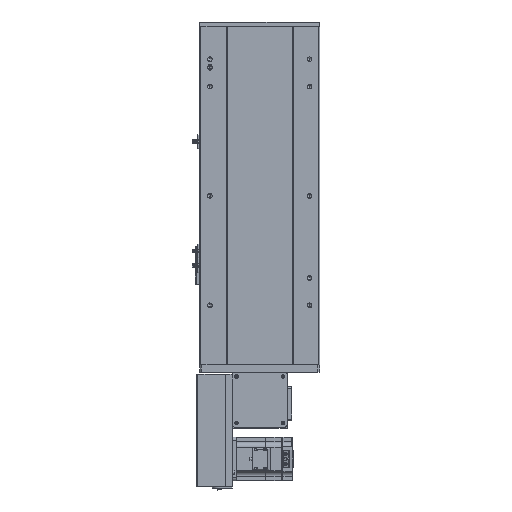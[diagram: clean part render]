
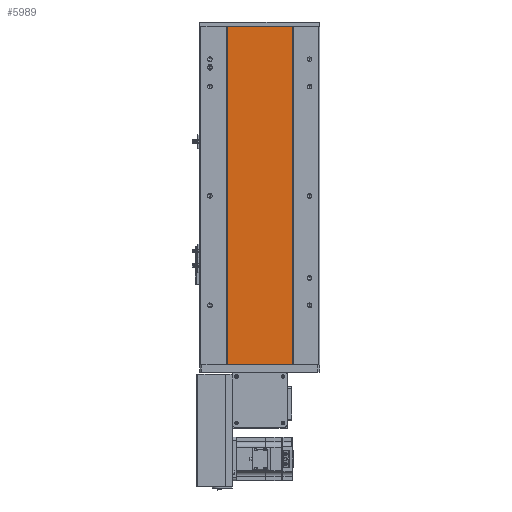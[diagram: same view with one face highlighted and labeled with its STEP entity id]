
A CAD part, front view. The second image highlights one B-rep face of the part: STEP entity #5989.
In plain terms, the highlighted planar face has unit normal (0, -1, 0).
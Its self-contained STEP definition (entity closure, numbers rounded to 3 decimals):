
#482 = FACE_OUTER_BOUND ( 'NONE', #29528, .T. ) ;
#1345 = ORIENTED_EDGE ( 'NONE', *, *, #31892, .T. ) ;
#2060 = ORIENTED_EDGE ( 'NONE', *, *, #35018, .F. ) ;
#2527 = LINE ( 'NONE', #17601, #28164 ) ;
#3098 = CARTESIAN_POINT ( 'NONE',  ( 432.408, 155.016, 0. ) ) ;
#3985 = AXIS2_PLACEMENT_3D ( 'NONE', #12836, #27239, #12342 ) ;
#5023 = ORIENTED_EDGE ( 'NONE', *, *, #47564, .F. ) ;
#5989 = ADVANCED_FACE ( 'NONE', ( #482 ), #30968, .F. ) ;
#8912 = DIRECTION ( 'NONE',  ( 0., 0., -1. ) ) ;
#9148 = CARTESIAN_POINT ( 'NONE',  ( 432.408, 155.016, 619. ) ) ;
#9761 = EDGE_CURVE ( 'NONE', #18168, #38358, #47835, .T. ) ;
#12142 = LINE ( 'NONE', #43395, #28960 ) ;
#12229 = VERTEX_POINT ( 'NONE', #44074 ) ;
#12342 = DIRECTION ( 'NONE',  ( 0., 0., 1. ) ) ;
#12836 = CARTESIAN_POINT ( 'NONE',  ( 0., 155.016, 619. ) ) ;
#15070 = LINE ( 'NONE', #18795, #47658 ) ;
#17601 = CARTESIAN_POINT ( 'NONE',  ( 0., 155.016, 619. ) ) ;
#18168 = VERTEX_POINT ( 'NONE', #3098 ) ;
#18795 = CARTESIAN_POINT ( 'NONE',  ( 432.408, 155.016, 619. ) ) ;
#21775 = DIRECTION ( 'NONE',  ( 1., 0., 0. ) ) ;
#24346 = ORIENTED_EDGE ( 'NONE', *, *, #9761, .T. ) ;
#25293 = DIRECTION ( 'NONE',  ( 1., 0., 0. ) ) ;
#25641 = VECTOR ( 'NONE', #21775, 1000. ) ;
#27239 = DIRECTION ( 'NONE',  ( 0., 1., 0. ) ) ;
#27938 = VERTEX_POINT ( 'NONE', #9148 ) ;
#28164 = VECTOR ( 'NONE', #25293, 1000. ) ;
#28960 = VECTOR ( 'NONE', #8912, 1000. ) ;
#29528 = EDGE_LOOP ( 'NONE', ( #24346, #5023, #2060, #1345 ) ) ;
#30968 = PLANE ( 'NONE',  #3985 ) ;
#31892 = EDGE_CURVE ( 'NONE', #27938, #18168, #15070, .T. ) ;
#35018 = EDGE_CURVE ( 'NONE', #27938, #12229, #2527, .T. ) ;
#35265 = CARTESIAN_POINT ( 'NONE',  ( 551.58, 155.016, 0. ) ) ;
#37663 = DIRECTION ( 'NONE',  ( 0., 0., -1. ) ) ;
#38358 = VERTEX_POINT ( 'NONE', #35265 ) ;
#40138 = CARTESIAN_POINT ( 'NONE',  ( 0., 155.016, 0. ) ) ;
#43395 = CARTESIAN_POINT ( 'NONE',  ( 551.58, 155.016, 619. ) ) ;
#44074 = CARTESIAN_POINT ( 'NONE',  ( 551.58, 155.016, 619. ) ) ;
#47564 = EDGE_CURVE ( 'NONE', #12229, #38358, #12142, .T. ) ;
#47658 = VECTOR ( 'NONE', #37663, 1000. ) ;
#47835 = LINE ( 'NONE', #40138, #25641 ) ;
